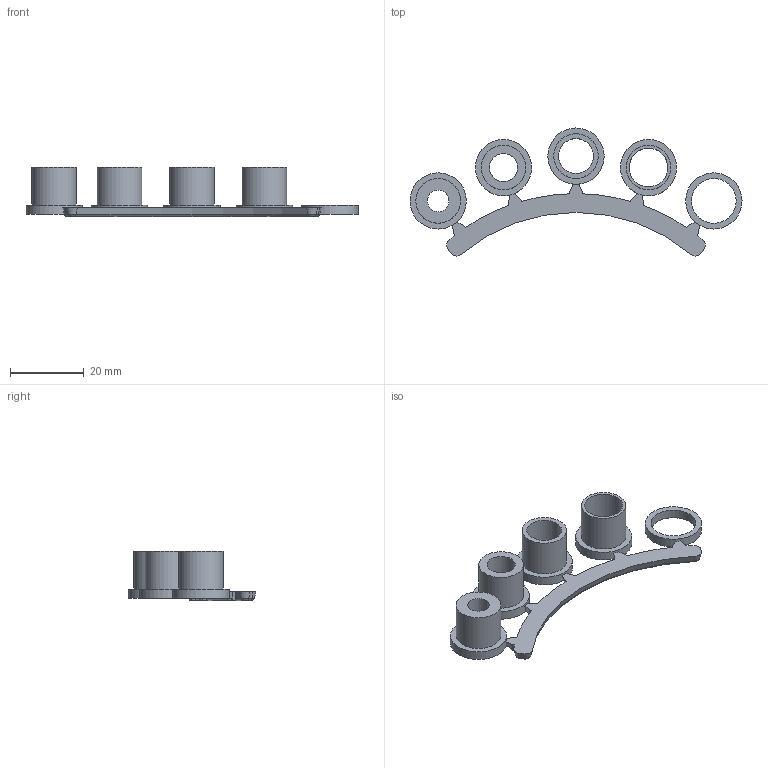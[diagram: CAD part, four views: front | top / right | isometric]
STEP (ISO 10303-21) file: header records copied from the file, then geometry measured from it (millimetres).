
FILE_DESCRIPTION((''),'2;1');
FILE_NAME('C:\Users\J_DiPietro.NTC\Desktop\comp_insert 25c.stp','2014-10-30T12:59:39',('j_dipietro'),(''),'Autodesk Inventor 2012','Autodesk Inventor 2012','');
FILE_SCHEMA(('CONFIG_CONTROL_DESIGN'));
Length unit declared in the file: inch
Products named in the file (1): comp_insert 25c
Bounding box: 89.89 x 34.66 x 13.28 mm (x, y, z)
Volume: 4655.8 mm3; surface area: 5822 mm2
Topology: 1 solids, 1 shells, 76 faces, 191 edges, 126 vertices
Faces by surface type: plane 38, cone 16, cylinder 16, torus 6
Full cylindrical faces by diameter (mm): 5.842 x1, 7.62 x1, 9.398 x1, 10.414 x1, 12.09 x5, 15.24 x5
Entity records: 2274 total; most frequent: CARTESIAN_POINT 462, DIRECTION 406, ORIENTED_EDGE 326, AXIS2_PLACEMENT_3D 181, EDGE_CURVE 163, VERTEX_POINT 117, EDGE_LOOP 114, CIRCLE 84
